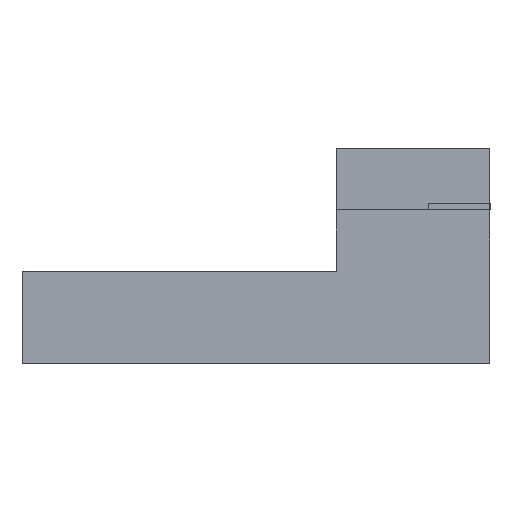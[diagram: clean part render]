
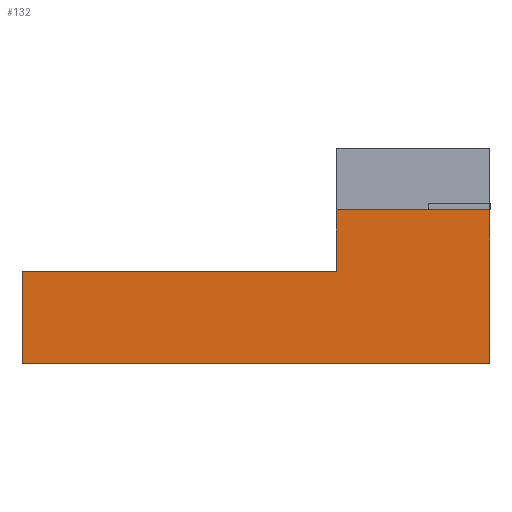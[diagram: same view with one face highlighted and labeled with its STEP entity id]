
A CAD part, front view. The second image highlights one B-rep face of the part: STEP entity #132.
In plain terms, the highlighted planar face has unit normal (0, -1, 0).
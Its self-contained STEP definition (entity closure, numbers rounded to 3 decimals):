
#132=ADVANCED_FACE('',(#363),#365,.T.);
#363=FACE_BOUND('',#364,.T.);
#364=EDGE_LOOP('',(#540,#541,#542,#543,#544,#545));
#365=PLANE('',#366);
#366=AXIS2_PLACEMENT_3D('',#367,#368,#369);
#367=CARTESIAN_POINT('',(-2.5,-2.5,0.));
#368=DIRECTION('',(0.,-1.,0.));
#369=DIRECTION('',(1.,0.,0.));
#540=ORIENTED_EDGE('',*,*,#640,.T.);
#541=ORIENTED_EDGE('',*,*,#641,.F.);
#542=ORIENTED_EDGE('',*,*,#642,.F.);
#543=ORIENTED_EDGE('',*,*,#643,.F.);
#544=ORIENTED_EDGE('',*,*,#644,.T.);
#545=ORIENTED_EDGE('',*,*,#645,.T.);
#640=EDGE_CURVE('',#704,#705,#706,.T.);
#641=EDGE_CURVE('',#707,#705,#708,.T.);
#642=EDGE_CURVE('',#709,#707,#710,.T.);
#643=EDGE_CURVE('',#711,#709,#712,.T.);
#644=EDGE_CURVE('',#711,#713,#714,.T.);
#645=EDGE_CURVE('',#713,#704,#715,.T.);
#704=VERTEX_POINT('',#820);
#705=VERTEX_POINT('',#821);
#706=LINE('',#822,#823);
#707=VERTEX_POINT('',#825);
#708=LINE('',#826,#827);
#709=VERTEX_POINT('',#829);
#710=LINE('',#830,#831);
#711=VERTEX_POINT('',#833);
#712=LINE('',#834,#835);
#713=VERTEX_POINT('',#837);
#714=LINE('',#838,#839);
#715=LINE('',#841,#842);
#820=CARTESIAN_POINT('',(0.,-2.5,1.));
#821=CARTESIAN_POINT('',(-2.5,-2.5,1.));
#822=CARTESIAN_POINT('',(0.,-2.5,1.));
#823=VECTOR('',#824,1.);
#824=DIRECTION('',(-1.,0.,0.));
#825=CARTESIAN_POINT('',(-2.5,-2.5,0.));
#826=CARTESIAN_POINT('',(-2.5,-2.5,0.));
#827=VECTOR('',#828,1.);
#828=DIRECTION('',(0.,0.,1.));
#829=CARTESIAN_POINT('',(-7.6,-2.5,0.));
#830=CARTESIAN_POINT('',(-7.6,-2.5,0.));
#831=VECTOR('',#832,1.);
#832=DIRECTION('',(1.,0.,0.));
#833=CARTESIAN_POINT('',(-7.6,-2.5,-1.5));
#834=CARTESIAN_POINT('',(-7.6,-2.5,-1.5));
#835=VECTOR('',#836,1.);
#836=DIRECTION('',(0.,0.,1.));
#837=CARTESIAN_POINT('',(0.,-2.5,-1.5));
#838=CARTESIAN_POINT('',(-7.6,-2.5,-1.5));
#839=VECTOR('',#840,1.);
#840=DIRECTION('',(1.,0.,0.));
#841=CARTESIAN_POINT('',(0.,-2.5,-1.5));
#842=VECTOR('',#843,1.);
#843=DIRECTION('',(0.,0.,1.));
